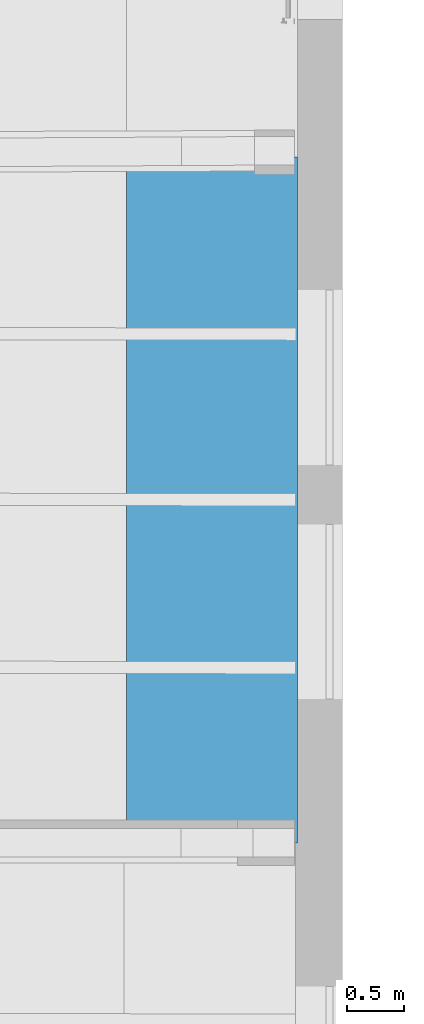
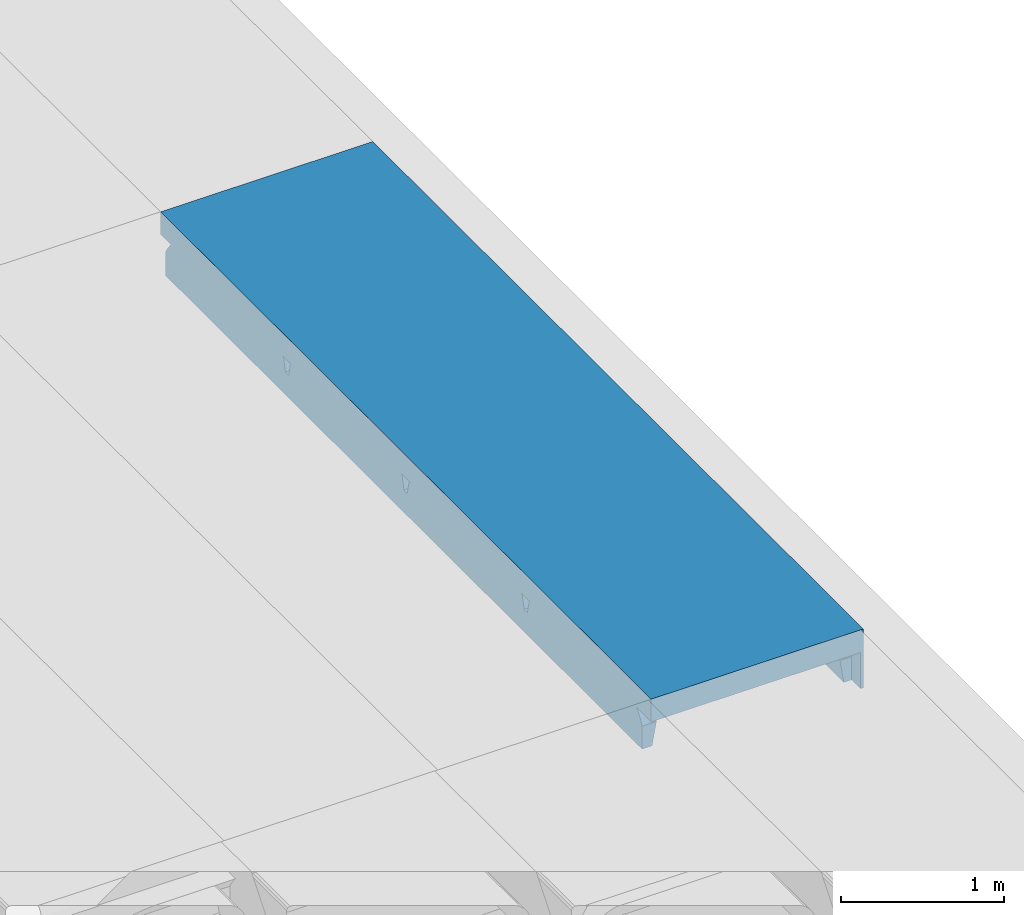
# One storey, part 59 of 301: 1 beam.
"""IFC2X3 building model written with IfcOpenShell, lengths in millimetres."""

import ifcopenshell
import ifcopenshell.guid

model = None  # the IFC model being written
_history = None  # IfcOwnerHistory: only IFC2X3 demands one
_inside = {}  # id of a spatial element -> (the spatial element, [elements in it])
_under = {}  # id of a project, library or spatial element -> (it, [spatial elements below it])
_declared = {}  # id of a project -> (the project, [libraries it declares])
_typed = {}  # id of a type object -> (the type object, [elements of that type])
_made_of = {}  # id of a material, layer set ... -> (it, [elements and type objects made of it])


def new_model(schema):
    """Start an empty IFC model of exactly this schema.

    Asked for "IFC4X3", IfcOpenShell would pick the latest addendum, in which some entities
    have other attributes; the version numbers below select the first issue.
    IFC2X3 requires an IfcOwnerHistory on every rooted entity: one is made here for all.
    """
    global model, _history
    if schema == "IFC4X3":
        model = ifcopenshell.file(schema_version=(4, 3, 0, 0))
    else:
        model = ifcopenshell.file(schema=schema)
    _inside.clear()
    _under.clear()
    _declared.clear()
    _typed.clear()
    _made_of.clear()
    _history = None
    if model.schema == "IFC2X3":
        org = make("IfcOrganization", Name="unknown")
        user = make(
            "IfcPersonAndOrganization",
            ThePerson=make("IfcPerson", FamilyName="unknown"),
            TheOrganization=org,
        )
        app = make(
            "IfcApplication",
            ApplicationDeveloper=org,
            Version="unknown",
            ApplicationFullName="unknown",
            ApplicationIdentifier="unknown",
        )
        _history = make(
            "IfcOwnerHistory",
            OwningUser=user,
            OwningApplication=app,
            ChangeAction="ADDED",
            CreationDate=0,
        )
    return model


def make(cls, **values):
    """One entity of the class cls with the attributes given. An attribute that is None is left unset."""
    return model.create_entity(
        cls, **{name: value for name, value in values.items() if value is not None}
    )


def entity(cls, *values):
    """Any entity or typed value of the class cls, its attributes in the order of the schema. None: left unset."""
    e = model.create_entity(cls)
    for i, value in enumerate(values):
        if value is not None:
            e[i] = value
    return e


def rooted(cls, **values):
    """An entity with a GlobalId (a new one), such as an element, a storey or a relation."""
    return make(cls, GlobalId=ifcopenshell.guid.new(), OwnerHistory=_history, **values)


def si_unit(unit_type, name, prefix=None):
    """IfcSIUnit, for example si_unit("LENGTHUNIT", "METRE", prefix="MILLI")."""
    return make("IfcSIUnit", UnitType=unit_type, Prefix=prefix, Name=name)


def converted_unit(unit_type, name, factor, base, dimensions=None, offset=None):
    """IfcConversionBasedUnit, such as the inch: factor (a typed value) times the base unit."""
    return make(
        "IfcConversionBasedUnit"
        if offset is None
        else "IfcConversionBasedUnitWithOffset",
        ConversionOffset=offset,
        Dimensions=None
        if dimensions is None
        else entity("IfcDimensionalExponents", *dimensions),
        UnitType=unit_type,
        Name=name,
        ConversionFactor=make(
            "IfcMeasureWithUnit", ValueComponent=factor, UnitComponent=base
        ),
    )


def derived_unit(unit_type, elements):
    """IfcDerivedUnit: a product of units, each with its exponent."""
    return make(
        "IfcDerivedUnit",
        Elements=[
            make("IfcDerivedUnitElement", Unit=unit, Exponent=power)
            for unit, power in elements
        ],
        UnitType=unit_type,
    )


def money_unit(currency):
    """IfcMonetaryUnit."""
    return make("IfcMonetaryUnit", Currency=currency)


def assignment(units):
    """IfcUnitAssignment: the units of a project."""
    return None if units is None else make("IfcUnitAssignment", Units=units)


def point(xyz):
    """IfcCartesianPoint."""
    return None if xyz is None else make("IfcCartesianPoint", Coordinates=xyz)


def direction(xyz):
    """IfcDirection."""
    return None if xyz is None else make("IfcDirection", DirectionRatios=xyz)


def frame(location, z_axis=None, x_axis=None):
    """IfcAxis2Placement3D, a coordinate frame: its origin and axes. An axis left out is left unset."""
    return make(
        "IfcAxis2Placement3D",
        Location=point(location),
        Axis=direction(z_axis),
        RefDirection=direction(x_axis),
    )


def origin_with_axes():
    """The frame at (0, 0, 0) with the z axis (0, 0, 1) and the x axis (1, 0, 0) written out."""
    return frame((0.0, 0.0, 0.0), z_axis=(0.0, 0.0, 1.0), x_axis=(1.0, 0.0, 0.0))


def place(relative_to, where):
    """IfcLocalPlacement: puts the frame where relative to a parent placement (None: the world)."""
    return make(
        "IfcLocalPlacement", PlacementRelTo=relative_to, RelativePlacement=where
    )


def context(
    kind, dimensions, precision=None, world=None, true_north=None, identifier=None
):
    """IfcGeometricRepresentationContext, for example the 3D "Model" context."""
    return make(
        "IfcGeometricRepresentationContext",
        ContextIdentifier=identifier,
        ContextType=kind,
        CoordinateSpaceDimension=dimensions,
        Precision=precision,
        WorldCoordinateSystem=world,
        TrueNorth=true_north,
    )


def subcontext(parent, identifier, kind, view, scale=None):
    """IfcGeometricRepresentationSubContext, for example "Body" below "Model"."""
    return make(
        "IfcGeometricRepresentationSubContext",
        ContextIdentifier=identifier,
        ContextType=kind,
        ParentContext=parent,
        TargetScale=scale,
        TargetView=view,
    )


def project(units=None, contexts=None):
    """IfcProject with its units and contexts."""
    return rooted(
        "IfcProject",
        Name="project",
        RepresentationContexts=contexts,
        UnitsInContext=assignment(units),
    )


def spatial(cls, under=None, at=None, **own):
    """A site, building, storey or space (cls), placed at a placement, below another one or the project."""
    s = rooted(cls, ObjectPlacement=at, **own)
    if under is not None:
        _under.setdefault(under.id(), (under, []))[1].append(s)
    return s


def faces_of(points, faces, orient=None, outer=None):
    """IfcFace entities. A face is a list of loops; a loop is a list of indices into points, from 0.

    orient and outer hold one flag for each loop. By default every Orientation is true, the
    first loop of a face is its IfcFaceOuterBound and the others are IfcFaceBound.
    """
    made = []
    for i, loops in enumerate(faces):
        bounds = []
        for j, loop in enumerate(loops):
            is_outer = j == 0 if outer is None else outer[i][j]
            bounds.append(
                make(
                    "IfcFaceOuterBound" if is_outer else "IfcFaceBound",
                    Bound=make("IfcPolyLoop", Polygon=[points[k] for k in loop]),
                    Orientation=True if orient is None else orient[i][j],
                )
            )
        made.append(make("IfcFace", Bounds=bounds))
    return made


def faceted_brep(points, faces, orient=None, outer=None, voids=None):
    """IfcFacetedBrep: a solid bounded by flat faces; with voids (closed shells), ...WithVoids."""
    shared = [point(p) for p in points]
    hull = make("IfcClosedShell", CfsFaces=faces_of(shared, faces, orient, outer))
    if voids is None:
        return make("IfcFacetedBrep", Outer=hull)
    return make(
        "IfcFacetedBrepWithVoids",
        Outer=hull,
        Voids=[
            make(cls, CfsFaces=faces_of(shared, fs, o, b)) for cls, fs, o, b in voids
        ],
    )


def shape(context_of_items, identifier, shape_type, items):
    """IfcShapeRepresentation: the items that make up one representation, for example the "Body"."""
    return make(
        "IfcShapeRepresentation",
        ContextOfItems=context_of_items,
        RepresentationIdentifier=identifier,
        RepresentationType=shape_type,
        Items=items,
    )


def material(Name=None, Category=None):
    """IfcMaterial."""
    return make("IfcMaterial", Name=Name, Category=Category)


def made_of(thing, what):
    """Note that an element or type object is made of a material, layer set ...; save() writes the relation."""
    if what is not None:
        _made_of.setdefault(what.id(), (what, []))[1].append(thing)
    return thing


def type_object(cls, material=None, **own):
    """A type object (cls), such as IfcWallType, which elements share."""
    return made_of(rooted(cls, **own), material)


def element(
    cls,
    number,
    at=None,
    inside=None,
    cuts=None,
    type_object=None,
    material=None,
    context=None,
    identifier="Body",
    shape_type=None,
    held_by="IfcProductDefinitionShape",
    body=None,
    shapes=None,
    **own,
):
    """One element of the class cls, such as IfcWall. Its Tag is "e" and its number.

    at: its placement. inside: the storey or other place that contains it. cuts: it is an
    opening in that element (IfcRelVoidsElement). A single representation is given by context,
    identifier, shape_type and body (its items); several are given by shapes. held_by: the class
    of the entity that holds the representations. save() writes the other relations.
    """
    e = rooted(cls, Tag="e%d" % number, ObjectPlacement=at, **own)
    if body is not None:
        shapes = [shape(context, identifier, shape_type, body)]
    if shapes is not None:
        e.Representation = make(held_by, Representations=shapes)
    if inside is not None:
        _inside.setdefault(inside.id(), (inside, []))[1].append(e)
    if cuts is not None:
        rooted(
            "IfcRelVoidsElement", RelatingBuildingElement=cuts, RelatedOpeningElement=e
        )
    if type_object is not None:
        _typed.setdefault(type_object.id(), (type_object, []))[1].append(e)
    return made_of(e, material)


def aggregate(whole, parts):
    """IfcRelAggregates: a whole, such as a stair, and the parts it consists of."""
    return rooted("IfcRelAggregates", RelatingObject=whole, RelatedObjects=parts)


def save(model, path):
    """Write the relations noted so far, then the file.

    IfcRelAggregates (storeys below a building ...), IfcRelContainedInSpatialStructure (elements
    in a storey), IfcRelDefinesByType, IfcRelAssociatesMaterial and IfcRelDeclares: one each for
    every whole, place, type object, material and project.
    """
    for whole, parts in _under.values():
        aggregate(whole, parts)
    for where, things in _inside.values():
        rooted(
            "IfcRelContainedInSpatialStructure",
            RelatedElements=things,
            RelatingStructure=where,
        )
    for kind, things in _typed.values():
        rooted("IfcRelDefinesByType", RelatedObjects=things, RelatingType=kind)
    for what, things in _made_of.values():
        rooted("IfcRelAssociatesMaterial", RelatedObjects=things, RelatingMaterial=what)
    for by, libraries in _declared.values():
        rooted("IfcRelDeclares", RelatingContext=by, RelatedDefinitions=libraries)
    model.write(path)


model = new_model("IFC2X3")

# Units and contexts
model_context = context("Model", 3, precision=0.01, world=origin_with_axes(), true_north=direction((0.0, 1.0)))
body_context = subcontext(model_context, "Body", "Model", "MODEL_VIEW")
ifc_project = project(units=[si_unit("LENGTHUNIT", "METRE", prefix="MILLI"), si_unit("AREAUNIT", "SQUARE_METRE"), si_unit("VOLUMEUNIT", "CUBIC_METRE"), converted_unit("PLANEANGLEUNIT", "DEGREE", entity("IfcPlaneAngleMeasure", 0.0174532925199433), si_unit("PLANEANGLEUNIT", "RADIAN"), dimensions=[0, 0, 0, 0, 0, 0, 0]), money_unit("EUR"), converted_unit("TIMEUNIT", "Year", entity("IfcTimeMeasure", 31557600.0), si_unit("TIMEUNIT", "SECOND"), dimensions=[0, 0, 1, 0, 0, 0, 0]), si_unit("MASSUNIT", "GRAM", prefix="KILO"), si_unit("THERMODYNAMICTEMPERATUREUNIT", "DEGREE_CELSIUS"), si_unit("LUMINOUSINTENSITYUNIT", "LUMEN"), si_unit("ENERGYUNIT", "JOULE", prefix="MEGA"), derived_unit("THERMALCONDUCTANCEUNIT", [(si_unit("POWERUNIT", "WATT"), 1), (si_unit("LENGTHUNIT", "METRE"), -1), (si_unit("THERMODYNAMICTEMPERATUREUNIT", "KELVIN"), -1)]), derived_unit("SPECIFICHEATCAPACITYUNIT", [(si_unit("ENERGYUNIT", "JOULE"), 1), (si_unit("MASSUNIT", "GRAM", prefix="KILO"), -1), (si_unit("THERMODYNAMICTEMPERATUREUNIT", "KELVIN"), -1)]), derived_unit("MASSDENSITYUNIT", [(si_unit("MASSUNIT", "GRAM", prefix="KILO"), 1), (si_unit("VOLUMEUNIT", "CUBIC_METRE"), -1)])], contexts=[model_context])

# Site, building, storey
site_placement = place(None, frame((0.0, 0.0, 8650.0), z_axis=(0.0, 0.0, 1.0), x_axis=(1.0, 0.0, 0.0)))
site = spatial("IfcSite", under=ifc_project, at=site_placement, Name="43301:001:0844", CompositionType="ELEMENT")
building_placement = place(site_placement, origin_with_axes())
building = spatial("IfcBuilding", under=site, at=building_placement, Name="Kuressaare Ametikooli tuulikute mehaanikute õppekorpus", CompositionType="ELEMENT")
storey_placement = place(building_placement, origin_with_axes())
storey = spatial("IfcBuildingStorey", under=building, at=storey_placement, Name="1.korrus", CompositionType="ELEMENT", Elevation=0.0)

# Beam
ifc_material = material(Name="GENEERILINE - KONSTRUKTRIOON")
beam_type = type_object("IfcBeamType", Name="Precast Double Tee 2 1500 x 440", PredefinedType="NOTDEFINED")
beam_placement = place(storey_placement, frame((102505.8777537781, 56144.2695234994, 7100.0), z_axis=(0.0, 0.0, 1.0), x_axis=(-1.0, 0.0, 0.0)))
element("IfcBeam", 1, at=beam_placement, inside=storey, type_object=beam_type, material=ifc_material, context=body_context, shape_type="Brep", body=[
    faceted_brep([(-750.0, 6058.929209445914, -440.0001340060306), (-750.0, 52.82304528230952, -440.0001340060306), (-750.0, 52.82304528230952, 0.0), (-750.0, 6058.929209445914, 0.0), (-722.4142112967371, 105.5010784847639, -440.0001340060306), (-722.224544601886, 52.82304528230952, -440.0001340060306), (-729.9999999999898, 6058.929209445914, -440.0001340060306), (-730.0305935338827, 5949.349939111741, -440.0001340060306), (-674.9999969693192, 5949.334575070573, -440.0001340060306), (-674.9999969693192, 105.6717928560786, -440.0001340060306), (750.0, 52.82304528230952, -169.8235046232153), (750.0, 52.82304528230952, 0.0), (-722.2245446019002, 52.82304528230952, -169.8235046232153), (-584.2531439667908, 52.82304528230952, -169.8235046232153), (586.8200850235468, 52.82304528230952, -169.8235046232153), (750.0, 6058.929209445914, 0.0), (750.0, 6058.929209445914, -169.8234995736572), (586.8200850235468, 6058.929209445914, -169.8234995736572), (-584.2531439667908, 6058.929209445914, -169.8234995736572), (-729.9999999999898, 6058.929209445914, -169.8234995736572), (-722.6598622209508, 173.7281731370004, -169.8235046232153), (-722.4142131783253, 105.5016010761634, -267.4324731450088), (-722.5063562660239, 131.0934248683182, -222.3718133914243), (-722.6203919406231, 162.7656963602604, -181.3563625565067), (-730.0496420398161, 5881.122404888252, -169.8234995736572), (-730.0465813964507, 5892.084952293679, -181.3563575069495), (-730.0377387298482, 5923.757427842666, -222.3718083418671), (-730.0305936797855, 5949.349416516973, -267.4324680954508), (-647.8488081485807, 5949.326472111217, -267.4324680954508), (-640.7591226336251, 5923.732502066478, -222.3718083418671), (-640.3274701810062, 5921.613828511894, -219.6283094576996), (-640.3274701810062, 4557.425414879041, -219.6283094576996), (-648.5314139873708, 4545.090470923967, -271.7709778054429), (-648.5314139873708, 4505.090417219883, -271.7709778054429), (-640.3274701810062, 4492.728041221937, -219.6283094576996), (-640.3274701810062, 3086.56535852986, -219.6283094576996), (-648.5314139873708, 3074.230414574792, -271.7709778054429), (-648.5314139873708, 3034.230360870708, -271.7709778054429), (-640.3274701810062, 3021.867984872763, -219.6283094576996), (-640.3274701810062, 1635.453095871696, -219.6283094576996), (-648.5314139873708, 1623.118151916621, -271.7709778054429), (-648.5314139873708, 1583.118098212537, -271.7709778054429), (-640.3274701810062, 1570.755722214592, -219.6283094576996), (-640.3274701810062, 133.5078796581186, -219.6283094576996), (-640.7591234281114, 131.3877549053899, -222.3718133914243), (-647.848808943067, 105.7700730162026, -267.4324731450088), (750.0, 179.0304692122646, -169.8235046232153), (750.0, 168.0678503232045, -181.3563625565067), (750.0, 136.3951682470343, -222.3718133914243), (750.0, 110.8030126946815, -267.4324731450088), (750.0, 110.8024900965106, -440.0001340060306), (750.0, 5948.93672805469, -440.0001340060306), (750.0, 5948.93620545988, -267.4324680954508), (750.0, 5923.344214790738, -222.3718083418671), (750.0, 5891.671736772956, -181.3563575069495), (750.0, 5880.70918851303, -169.8234995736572), (750.0, 1646.141039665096, -175.3978342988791), (750.0, 1641.56642017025, -184.1936973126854), (750.0, 1620.826434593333, -271.7709778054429), (750.0, 1580.826380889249, -271.7709778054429), (750.0, 1560.085433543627, -184.1935020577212), (750.0, 1555.510793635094, -175.3977593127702), (750.0, 1547.312002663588, -169.8234995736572), (750.0, 1654.33989729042, -169.8234995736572), (750.0, 3092.678682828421, -184.1936973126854), (750.0, 3071.938697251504, -271.7709778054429), (750.0, 3031.93864354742, -271.7709778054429), (750.0, 3011.197696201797, -184.1935020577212), (750.0, 3006.623056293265, -175.3977593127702), (750.0, 2998.424265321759, -169.8234995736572), (750.0, 3105.452159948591, -169.8234995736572), (750.0, 3097.253302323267, -175.3978342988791), (750.0, 4542.798753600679, -271.7709778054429), (750.0, 4502.798699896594, -271.7709778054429), (750.0, 4482.057752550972, -184.1935020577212), (750.0, 4477.483112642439, -175.3977593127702), (750.0, 4469.284321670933, -169.8234995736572), (750.0, 4576.312216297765, -169.8234995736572), (750.0, 4568.113358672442, -175.3978342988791), (750.0, 4563.538739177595, -184.1936973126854), (-584.2531439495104, 174.2265050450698, -169.8235046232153), (586.8200850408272, 178.4429416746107, -169.8235046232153), (-584.2531439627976, 1549.49838976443, -169.8234995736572), (-584.2531439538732, 1656.526284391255, -169.8234995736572), (-584.2531439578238, 3000.610652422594, -169.8234995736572), (-584.2531439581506, 3107.638547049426, -169.8234995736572), (-584.2531439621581, 4471.470708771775, -169.8234995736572), (-584.2531439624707, 4578.498603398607, -169.8234995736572), (-584.2531439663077, 5881.081699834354, -169.8234995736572), (586.8200850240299, 5880.754746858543, -169.8234995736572), (586.8200850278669, 4576.579612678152, -169.8234995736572), (586.8200850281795, 4469.551718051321, -169.8234995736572), (586.8200850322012, 3105.719556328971, -169.8234995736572), (586.8200850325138, 2998.691661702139, -169.8234995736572), (586.8200850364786, 1654.607293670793, -169.8234995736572), (586.8200850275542, 1547.579399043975, -169.8234995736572), (-634.3038197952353, 148.574577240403, -200.1453415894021), (-621.7526411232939, 161.0314817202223, -184.072435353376), (-617.2693620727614, 163.1450116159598, -181.3563625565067), (-604.310838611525, 170.6540687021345, -173.5057932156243), (-604.310838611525, 5884.587500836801, -173.5057932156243), (-617.2693537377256, 5892.05346591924, -181.3563575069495), (-621.7526411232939, 5894.152095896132, -184.072435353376), (-634.3038197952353, 5906.567234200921, -200.1453415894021), (-634.3038197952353, 4562.029485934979, -200.1453415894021), (-733.0336519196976, 4565.968926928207, -184.1936973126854), (-733.0676376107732, 4545.22899704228, -271.7709778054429), (-621.8473334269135, 4565.786730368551, -184.1936973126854), (-733.133183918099, 4505.229050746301, -271.7709778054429), (-621.8471809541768, 4484.305743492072, -184.1935020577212), (-634.3038197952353, 4488.104025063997, -200.1453415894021), (-733.1671711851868, 4484.488159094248, -184.1935020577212), (-634.3038197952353, 3091.169429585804, -200.1453415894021), (-621.8473334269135, 3094.926674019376, -184.1936973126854), (-733.0336519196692, 3095.108870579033, -184.1936973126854), (-733.0676376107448, 3074.368940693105, -271.7709778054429), (-733.1331839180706, 3034.368994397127, -271.7709778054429), (-733.1671711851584, 3013.628102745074, -184.1935020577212), (-621.8471809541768, 3013.445687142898, -184.1935020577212), (-634.3038197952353, 3017.243968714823, -200.1453415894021), (-634.3038197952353, 1640.057166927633, -200.1453415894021), (-621.8473334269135, 1643.814411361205, -184.1936973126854), (-735.41152498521, 1644.000504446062, -184.1936973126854), (-735.4455106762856, 1623.260574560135, -271.7709778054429), (-735.5110569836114, 1583.260628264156, -271.7709778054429), (-735.5450442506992, 1562.519736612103, -184.1935020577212), (-621.8471809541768, 1562.333424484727, -184.1935020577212), (-634.3038197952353, 1566.131706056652, -200.1453415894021), (604.4404036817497, 176.4627239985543, -171.9734684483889), (620.1516209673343, 168.6660918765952, -180.2351660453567), (621.1429310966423, 167.603901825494, -181.3563625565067), (631.9095256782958, 158.239201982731, -193.5336498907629), (638.1842783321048, 145.439202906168, -210.1386333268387), (640.409702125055, 136.0005895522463, -222.3718133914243), (648.6070035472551, 110.4379482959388, -267.4324731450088), (680.0000000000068, 110.5504558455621, -440.0001340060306), (680.0000000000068, 5948.956271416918, -440.0001340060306), (648.6070026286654, 5948.964513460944, -267.4324680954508), (640.4097012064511, 5923.374811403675, -222.3718083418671), (621.1429266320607, 5891.707712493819, -181.3563575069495), (638.1842783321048, 5913.928871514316, -210.1386333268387), (631.9095256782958, 5901.108114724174, -193.5336498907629), (620.1516209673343, 5890.642241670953, -180.2351660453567), (604.4404036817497, 5882.793478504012, -171.9734684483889), (620.1516209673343, 1643.837980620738, -180.2351660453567), (623.651571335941, 1641.773462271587, -184.1936973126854), (610.952498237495, 1646.368891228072, -175.3978342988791), (638.1842783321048, 1635.605387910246, -210.1386333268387), (649.3962514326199, 1620.991289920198, -271.7709778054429), (631.9095256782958, 1639.548049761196, -193.5336498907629), (649.3962514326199, 1580.991236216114, -271.7709778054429), (638.1842783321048, 1566.41323914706, -210.1386333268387), (631.9095256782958, 1562.490968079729, -193.5336498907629), (623.651398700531, 1560.292475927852, -184.1935020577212), (610.952355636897, 1555.738645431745, -175.3977593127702), (620.1516209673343, 1558.239491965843, -180.2351660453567), (604.4404036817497, 1550.712765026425, -171.9734684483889), (604.4404036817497, 1651.416197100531, -171.9734684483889), (649.3962514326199, 3072.103552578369, -271.7709778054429), (623.651571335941, 3092.885724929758, -184.1936973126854), (631.9095256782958, 3090.660312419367, -193.5336498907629), (638.1842783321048, 3086.717650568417, -210.1386333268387), (649.3962514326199, 3032.103498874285, -271.7709778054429), (638.1842783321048, 3017.525501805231, -210.1386333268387), (631.9095256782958, 3013.603230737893, -193.5336498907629), (623.651398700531, 3011.404738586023, -184.1935020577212), (620.1516209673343, 3009.351754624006, -180.2351660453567), (610.952355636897, 3006.850908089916, -175.3977593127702), (604.4404036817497, 3001.825027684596, -171.9734684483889), (610.952498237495, 3097.481153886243, -175.3978342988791), (604.4404036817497, 3102.528459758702, -171.9734684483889), (620.1516209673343, 3094.950243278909, -180.2351660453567), (649.3962514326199, 4542.963608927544, -271.7709778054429), (649.3962514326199, 4502.963555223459, -271.7709778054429), (638.1842783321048, 4488.385558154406, -210.1386333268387), (631.9095256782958, 4484.463287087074, -193.5336498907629), (623.651398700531, 4482.264794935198, -184.1935020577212), (620.1516209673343, 4480.211810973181, -180.2351660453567), (610.952355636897, 4477.71096443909, -175.3977593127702), (604.4404036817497, 4472.68508403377, -171.9734684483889), (604.4404036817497, 4573.388516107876, -171.9734684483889), (610.952498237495, 4568.341210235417, -175.3978342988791), (620.1516209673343, 4565.810299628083, -180.2351660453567), (623.651571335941, 4563.745781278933, -184.1936973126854), (631.9095256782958, 4561.520368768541, -193.5336498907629), (638.1842783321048, 4557.577706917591, -210.1386333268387), (-604.310838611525, 1554.947287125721, -173.5057932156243), (-735.5659755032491, 1549.74634003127, -169.8234995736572), (-735.3905936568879, 1656.773947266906, -169.8234995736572), (-604.310838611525, 1651.143151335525, -173.5057932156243), (-604.310838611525, 3006.059549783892, -173.5057932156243), (-733.1881024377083, 3000.85470616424, -169.8234995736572), (-733.012720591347, 3107.882313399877, -169.8234995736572), (-604.310838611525, 3102.255413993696, -173.5057932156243), (-604.310838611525, 4476.919606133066, -173.5057932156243), (-733.1881024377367, 4471.714762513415, -169.8234995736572), (-733.0127205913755, 4578.742369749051, -169.8234995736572), (-604.310838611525, 4573.11547034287, -173.5057932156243), (-621.7526411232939, 1562.270303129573, -184.072435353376), (-607.4338079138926, 1557.735165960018, -175.3977593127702), (-607.4339316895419, 4570.33773120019, -175.3978342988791), (-621.7526411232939, 4565.849642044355, -184.072435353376), (-733.0261556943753, 4570.543534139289, -175.3978342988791), (-733.1746674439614, 4479.913531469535, -175.3977593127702), (-621.7526411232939, 4484.242622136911, -184.072435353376), (-621.7526411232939, 3094.989585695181, -184.072435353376), (-607.4338079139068, 4479.707484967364, -175.3977593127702), (-607.4339316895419, 3099.477674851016, -175.3978342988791), (-733.0261556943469, 3099.683477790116, -175.3978342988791), (-733.174667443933, 3009.05347512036, -175.3977593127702), (-607.4338079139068, 3008.847428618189, -175.3977593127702), (-621.7526411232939, 3013.382565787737, -184.072435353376), (-621.7526411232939, 1643.87732303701, -184.072435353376), (-607.4339316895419, 1648.365412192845, -175.3978342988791), (-735.4040287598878, 1648.575111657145, -175.3978342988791), (-735.5525405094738, 1557.94510898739, -175.3977593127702)], [[[0, 1, 2, 3]], [[4, 5, 1, 0, 6, 7, 8, 9]], [[10, 11, 2, 1, 5, 12, 13, 14]], [[3, 2, 11, 15]], [[3, 15, 16, 17, 18, 19, 6, 0]], [[20, 12, 5, 4, 21, 22, 23]], [[19, 24, 25, 26, 27, 7, 6]], [[28, 8, 7, 27]], [[29, 30, 31, 32, 33, 34, 35, 36, 37, 38, 39, 40, 41, 42, 43, 44, 45, 9, 8, 28]], [[45, 21, 4, 9]], [[15, 11, 10, 46, 47, 48, 49, 50, 51, 52, 53, 54, 55, 16], [56, 57, 58, 59, 60, 61, 62, 63], [64, 65, 66, 67, 68, 69, 70, 71], [72, 73, 74, 75, 76, 77, 78, 79]], [[80, 13, 12, 20]], [[81, 14, 13, 80, 82, 83, 84, 85, 86, 87, 88, 18, 17, 89, 90, 91, 92, 93, 94, 95]], [[46, 10, 14, 81]], [[55, 89, 17, 16]], [[24, 19, 18, 88]], [[22, 21, 45, 44]], [[43, 96, 97, 98, 23, 22, 44]], [[23, 98, 99, 80, 20]], [[100, 101, 25, 24, 88]], [[26, 25, 101, 102, 103, 30, 29]], [[26, 29, 28, 27]], [[30, 103, 104, 31]], [[105, 106, 32, 31, 104, 107]], [[106, 108, 33, 32]], [[109, 110, 34, 33, 108, 111]], [[112, 35, 34, 110]], [[113, 114, 115, 36, 35, 112]], [[36, 115, 116, 37]], [[117, 118, 119, 38, 37, 116]], [[119, 120, 39, 38]], [[120, 121, 122, 123, 40, 39]], [[41, 40, 123, 124]], [[124, 125, 126, 127, 42, 41]], [[42, 127, 96, 43]], [[81, 128, 129, 130, 47, 46]], [[130, 131, 132, 133, 48, 47]], [[49, 48, 133, 134]], [[50, 49, 134, 135]], [[135, 136, 51, 50]], [[51, 136, 137, 52]], [[52, 137, 138, 53]], [[139, 54, 53, 138, 140, 141]], [[89, 55, 54, 139, 142, 143]], [[144, 145, 57, 56, 146]], [[147, 148, 58, 57, 145, 149]], [[148, 150, 59, 58]], [[60, 59, 150, 151, 152, 153]], [[154, 61, 60, 153, 155]], [[95, 62, 61, 154, 156]], [[95, 94, 63, 62]], [[157, 146, 56, 63, 94]], [[158, 65, 64, 159, 160, 161]], [[162, 66, 65, 158]], [[66, 162, 163, 164, 165, 67]], [[68, 67, 165, 166, 167]], [[69, 68, 167, 168, 93]], [[92, 70, 69, 93]], [[169, 71, 70, 92, 170]], [[159, 64, 71, 169, 171]], [[73, 72, 172, 173]], [[173, 174, 175, 176, 74, 73]], [[74, 176, 177, 178, 75]], [[75, 178, 179, 91, 76]], [[77, 76, 91, 90]], [[78, 77, 90, 180, 181]], [[79, 78, 181, 182, 183]], [[72, 79, 183, 184, 185, 172]], [[186, 82, 80, 99]], [[83, 82, 187, 188]], [[84, 83, 189, 190]], [[84, 191, 192, 85]], [[85, 193, 194, 86]], [[195, 196, 87, 86]], [[100, 88, 87, 197]], [[89, 143, 180, 90]], [[170, 92, 91, 179]], [[168, 157, 94, 93]], [[95, 156, 128, 81]], [[198, 97, 96, 127, 126]], [[99, 98, 97, 198, 199, 186]], [[100, 197, 200, 201, 102, 101]], [[102, 201, 107, 104, 103]], [[106, 105, 202, 196, 195, 203, 111, 108]], [[202, 105, 107, 201, 200]], [[112, 110, 109, 204, 205, 113]], [[203, 206, 204, 109, 111]], [[207, 208, 114, 113, 205]], [[116, 115, 114, 208, 192, 191, 209, 117]], [[117, 209, 210, 211, 118]], [[121, 120, 119, 118, 211, 212]], [[212, 213, 214, 122, 121]], [[125, 124, 123, 122, 214, 188, 187, 215]], [[126, 125, 215, 199, 198]], [[155, 129, 128, 156, 154]], [[131, 130, 129, 155, 153, 152]], [[152, 151, 132, 131]], [[174, 173, 172, 185, 140, 138, 137, 136, 135, 134, 133, 132, 151, 150, 148, 147, 163, 162, 158, 161]], [[141, 140, 185, 184]], [[141, 184, 183, 182, 142, 139]], [[142, 182, 181, 180, 143]], [[145, 144, 166, 165, 164, 149]], [[146, 157, 168, 167, 166, 144]], [[163, 147, 149, 164]], [[171, 177, 176, 175, 160, 159]], [[161, 160, 175, 174]], [[170, 179, 178, 177, 171, 169]], [[199, 215, 187, 82, 186]], [[189, 83, 188, 214, 213]], [[213, 212, 211, 210, 190, 189]], [[209, 191, 84, 190, 210]], [[85, 192, 208, 207, 193]], [[205, 204, 206, 194, 193, 207]], [[195, 86, 194, 206, 203]], [[196, 202, 200, 197, 87]]]),
])

save(model, "model.ifc")
